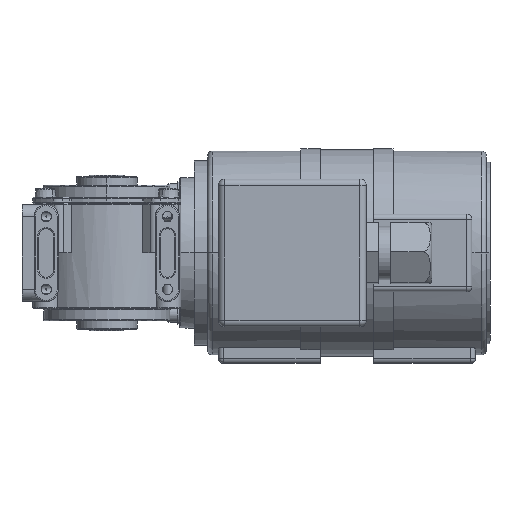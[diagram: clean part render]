
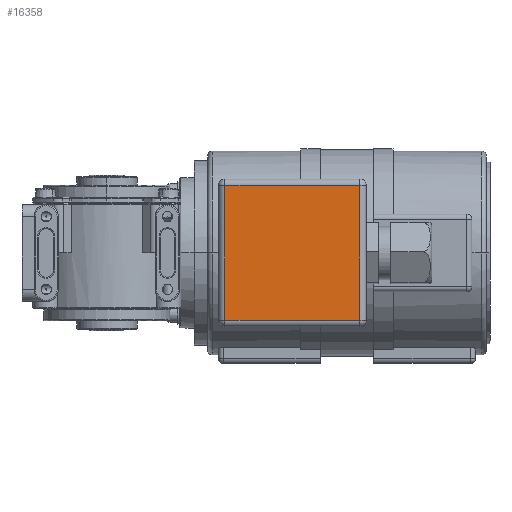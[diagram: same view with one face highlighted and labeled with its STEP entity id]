
A CAD part, front view. The second image highlights one B-rep face of the part: STEP entity #16358.
In plain terms, the highlighted planar face has unit normal (0, -1, 0).
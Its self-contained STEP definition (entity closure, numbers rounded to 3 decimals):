
#2218 = PLANE ( 'NONE',  #29456 ) ;
#3159 = DIRECTION ( 'NONE',  ( 0., 1., 0. ) ) ;
#3247 = VERTEX_POINT ( 'NONE', #11571 ) ;
#3496 = ORIENTED_EDGE ( 'NONE', *, *, #28602, .T. ) ;
#4046 = VECTOR ( 'NONE', #9282, 1000. ) ;
#4425 = EDGE_LOOP ( 'NONE', ( #13978, #3496, #20484, #26900 ) ) ;
#5410 = LINE ( 'NONE', #22258, #7210 ) ;
#6474 = VECTOR ( 'NONE', #15300, 1000. ) ;
#7210 = VECTOR ( 'NONE', #25100, 1000. ) ;
#9282 = DIRECTION ( 'NONE',  ( 0., 0., -1. ) ) ;
#11571 = CARTESIAN_POINT ( 'NONE',  ( -90.008, -63.521, 27.828 ) ) ;
#12311 = FACE_OUTER_BOUND ( 'NONE', #4425, .T. ) ;
#13589 = VERTEX_POINT ( 'NONE', #23596 ) ;
#13656 = VECTOR ( 'NONE', #15446, 1000. ) ;
#13978 = ORIENTED_EDGE ( 'NONE', *, *, #14039, .T. ) ;
#14039 = EDGE_CURVE ( 'NONE', #3247, #13589, #16972, .T. ) ;
#15176 = VERTEX_POINT ( 'NONE', #22401 ) ;
#15300 = DIRECTION ( 'NONE',  ( 0., 0., 1. ) ) ;
#15446 = DIRECTION ( 'NONE',  ( -1., 0., 0. ) ) ;
#15654 = CARTESIAN_POINT ( 'NONE',  ( -34.352, -63.521, 27.828 ) ) ;
#16358 = ADVANCED_FACE ( 'NONE', ( #12311 ), #2218, .F. ) ;
#16690 = EDGE_CURVE ( 'NONE', #15176, #19941, #20008, .T. ) ;
#16749 = EDGE_CURVE ( 'NONE', #19941, #3247, #29700, .T. ) ;
#16972 = LINE ( 'NONE', #31183, #4046 ) ;
#17895 = CARTESIAN_POINT ( 'NONE',  ( -34.352, -63.521, 0. ) ) ;
#19941 = VERTEX_POINT ( 'NONE', #15654 ) ;
#20008 = LINE ( 'NONE', #17895, #6474 ) ;
#20484 = ORIENTED_EDGE ( 'NONE', *, *, #16690, .T. ) ;
#22258 = CARTESIAN_POINT ( 'NONE',  ( 19.32, -63.521, -27.828 ) ) ;
#22401 = CARTESIAN_POINT ( 'NONE',  ( -34.352, -63.521, -27.828 ) ) ;
#23596 = CARTESIAN_POINT ( 'NONE',  ( -90.008, -63.521, -27.828 ) ) ;
#25100 = DIRECTION ( 'NONE',  ( 1., 0., 0. ) ) ;
#26900 = ORIENTED_EDGE ( 'NONE', *, *, #16749, .T. ) ;
#27642 = CARTESIAN_POINT ( 'NONE',  ( 19.32, -63.521, 27.828 ) ) ;
#27834 = CARTESIAN_POINT ( 'NONE',  ( 19.32, -63.521, 0. ) ) ;
#28602 = EDGE_CURVE ( 'NONE', #13589, #15176, #5410, .T. ) ;
#29456 = AXIS2_PLACEMENT_3D ( 'NONE', #27834, #3159, #30357 ) ;
#29700 = LINE ( 'NONE', #27642, #13656 ) ;
#30357 = DIRECTION ( 'NONE',  ( 1., 0., 0. ) ) ;
#31183 = CARTESIAN_POINT ( 'NONE',  ( -90.008, -63.521, 0. ) ) ;
